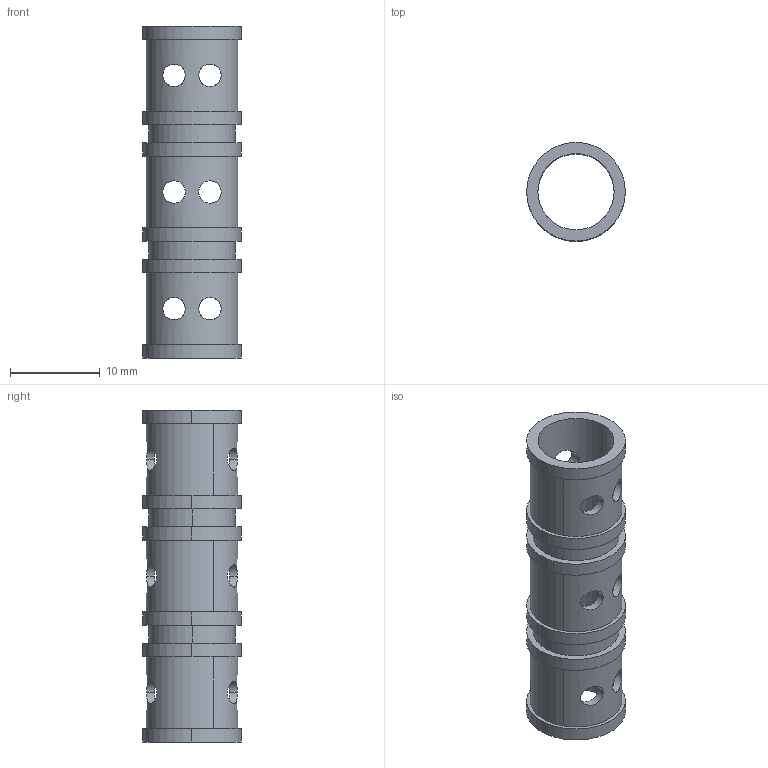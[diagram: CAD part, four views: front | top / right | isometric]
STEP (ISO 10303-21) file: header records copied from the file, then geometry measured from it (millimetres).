
FILE_DESCRIPTION(('CATIA V5 STEP Exchange'),'2;1');
FILE_NAME('G:\够快云库\系统集成开发部\1.部门成员\孙国\3D-stp打印件\1222\BPC0010159 支撑圈.stp','2020-12-22T09:02:32+00:00',('none'),('none'),'CATIA Version 5 Release 20 GA (IN-10)','CATIA V5 STEP AP203','none');
FILE_SCHEMA(('CONFIG_CONTROL_DESIGN'));
Length unit declared in the file: millimetre
Products named in the file (1): 支撑圈.2
Bounding box: 11 x 11 x 37 mm (x, y, z)
Volume: 949.8 mm3; surface area: 2394.7 mm2
Topology: 1 solids, 1 shells, 60 faces, 144 edges, 96 vertices
Faces by surface type: cylinder 48, plane 12
Entity records: 2260 total; most frequent: CARTESIAN_POINT 1007, ORIENTED_EDGE 288, EDGE_CURVE 144, DIRECTION 140, EDGE_LOOP 96, VERTEX_POINT 96, AXIS2_PLACEMENT_3D 71, ADVANCED_FACE 60
